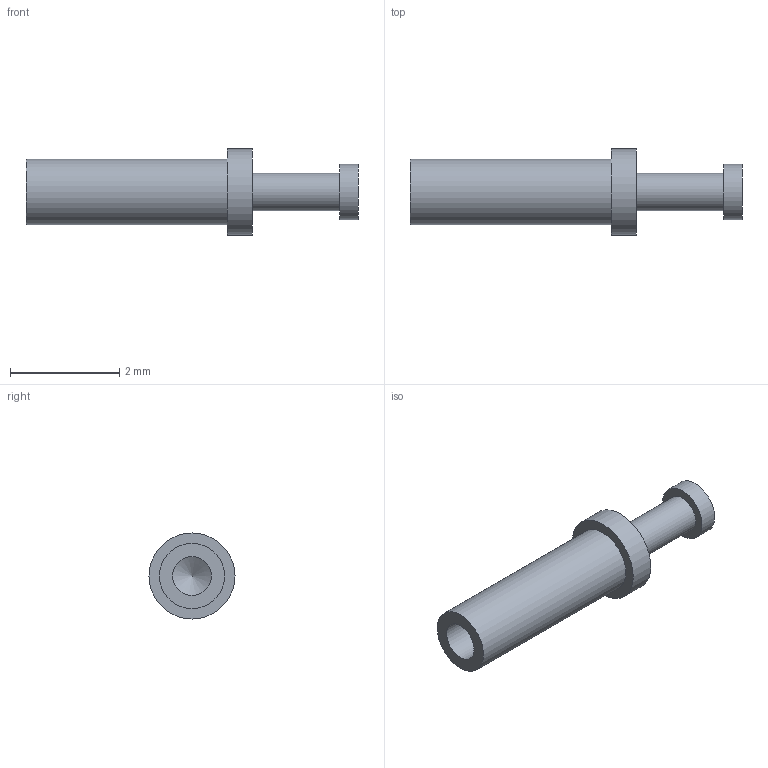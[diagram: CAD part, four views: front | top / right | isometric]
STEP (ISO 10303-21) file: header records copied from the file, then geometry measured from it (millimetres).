
FILE_DESCRIPTION(/* description */ (''),/* implementation_level */ '2;1');
FILE_NAME(/* name */ 'Z:\STEP folder\160-2085-04.ipt.stp',/* time_stamp */ '2016-12-07T10:51:11+00:00',/* author */ ('P. Karlsons'),/* organization */ (''),/* preprocessor_version */ 'ST-DEVELOPER v15.2',/* originating_system */ 'Autodesk Inventor 2014',/* authorisation */ '');
FILE_SCHEMA (('AUTOMOTIVE_DESIGN { 1 0 10303 214 3 1 1 }'));
Length unit declared in the file: millimetre
Products named in the file (1): 160-2085-04
Bounding box: 6.07 x 1.57 x 1.57 mm (x, y, z)
Volume: 5.5 mm3; surface area: 27.2 mm2
Topology: 1 solids, 1 shells, 11 faces, 17 edges, 11 vertices
Faces by surface type: cylinder 5, plane 5, cone 1
Full cylindrical faces by diameter (mm): 0.686 x1, 0.711 x1, 1.016 x1, 1.194 x1, 1.575 x1
Entity records: 235 total; most frequent: DIRECTION 44, CARTESIAN_POINT 32, AXIS2_PLACEMENT_3D 22, EDGE_LOOP 20, ORIENTED_EDGE 20, FACE_BOUND 11, ADVANCED_FACE 11, CIRCLE 10
